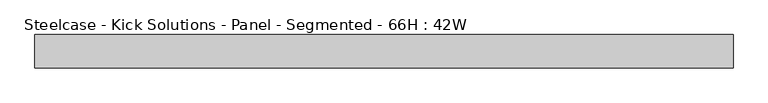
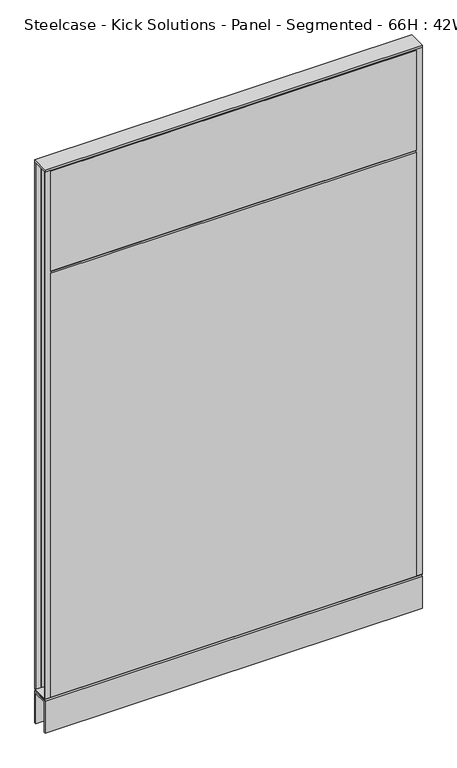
"""IFC4 building model written with IfcOpenShell, lengths in millimetres: furniture geometry, Steelcase - Kick Solutions - Panel - Segmented - 66H : 42W."""

from ifc_helpers import new_model, si_unit, frame, origin, place, context, project, spatial, polyline, outline, extrude, source, transform, mapped, element, save


def steelcase_kick_solutions_panel_segmented_66h_42w_aceb16ff(model_context):
    return source(origin(), model_context, "Body", "SweptSolid", [
        extrude(outline(polyline([(1.5e-06, 101.600003), (-3.175, 101.600003), (-3.175, 1676.4), (1.5e-06, 1673.3188448), (1.5e-06, 101.600003)])), frame((15.8749996, 0.0, 0.0), z_axis=(1.0, 0.0, 0.0), x_axis=(0.0, 1.0, 0.0)), (0.0, 0.0, 1.0), 1035.0500008),
        extrude(outline(polyline([(-50.8000015, 1374.6811552), (-50.8000015, 1673.3188448), (-47.625, 1676.4), (-47.625, 1371.6), (-50.8000015, 1374.6811552)])), frame((15.8749996, 0.0, 0.0), z_axis=(1.0, 0.0, 0.0), x_axis=(0.0, 1.0, 0.0)), (0.0, 0.0, 1.0), 1035.0500008),
        extrude(outline(polyline([(-50.8000015, 101.600003), (-50.8000015, 1368.5188448), (-47.625, 1371.6), (-47.625, 101.600003), (-50.8000015, 101.600003)])), frame((15.8749996, 0.0, 0.0), z_axis=(1.0, 0.0, 0.0), x_axis=(0.0, 1.0, 0.0)), (0.0, 0.0, 1.0), 1035.0500008),
        extrude(outline(polyline([(1066.8, -3.1750015), (1050.9250004, -3.1750015), (1050.9250004, 0.0), (1066.8, 0.0), (1066.8, -3.1750015)])), frame((0.0, 0.0, 101.7169049), z_axis=(0.0, 0.0, 1.0), x_axis=(1.0, 0.0, 0.0)), (0.0, 0.0, 1.0), 1574.799997),
        extrude(outline(polyline([(15.8749996, -50.8000015), (0.0, -50.8000015), (0.0, -47.625), (15.8749996, -47.625), (15.8749996, -50.8000015)])), frame((0.0, 0.0, 101.7169049), z_axis=(0.0, 0.0, 1.0), x_axis=(1.0, 0.0, 0.0)), (0.0, 0.0, 1.0), 1574.799997),
        extrude(outline(polyline([(-50.7995075, 101.7169049), (-0.000494, 101.7169049), (-3.0583512, 98.5421458), (-47.7416503, 98.5421458), (-50.7995075, 101.7169049)])), frame((0.0, 0.0, 0.0), z_axis=(1.0, 0.0, 0.0), x_axis=(0.0, 1.0, 0.0)), (0.0, 0.0, 1.0), 1066.8),
        extrude(outline(polyline([(1066.8, 0.0), (1066.8, -50.8000015), (0.0, -50.8000015), (0.0, 0.0), (1066.8, 0.0)])), frame((0.0, 0.0, 1676.5169018), z_axis=(0.0, 0.0, 1.0), x_axis=(1.0, 0.0, 0.0)), (0.0, 0.0, 1.0), 6.35),
        extrude(outline(polyline([(15.8749996, -3.1750015), (0.0, -3.1750015), (0.0, 0.0), (15.8749996, 0.0), (15.8749996, -3.1750015)])), frame((0.0, 0.0, 101.7169049), z_axis=(0.0, 0.0, 1.0), x_axis=(1.0, 0.0, 0.0)), (0.0, 0.0, 1.0), 1574.799997),
        extrude(outline(polyline([(1066.8, -50.8000015), (1050.9250004, -50.8000015), (1050.9250004, -47.625), (1066.8, -47.625), (1066.8, -50.8000015)])), frame((0.0, 0.0, 101.7169049), z_axis=(0.0, 0.0, 1.0), x_axis=(1.0, 0.0, 0.0)), (0.0, 0.0, 1.0), 1574.799997),
        extrude(outline(polyline([(-50.8000015, 95.3668927), (-47.6247484, 98.5421458), (-3.1752531, 98.5421458), (0.0, 95.3668927), (-50.8000015, 95.3668927)])), frame((0.0, 0.0, 0.0), z_axis=(1.0, 0.0, 0.0), x_axis=(0.0, 1.0, 0.0)), (0.0, 0.0, 1.0), 1066.8),
        extrude(outline(polyline([(0.0, 0.0), (-5.08, 0.0), (-5.08, 90.2869018), (-45.7200015, 90.2869018), (-45.7200015, 0.0), (-50.8000015, 0.0), (-50.8000015, 95.3669018), (0.0, 95.3669018), (0.0, 0.0)])), frame((0.0, 0.0, 0.0), z_axis=(1.0, 0.0, 0.0), x_axis=(0.0, 1.0, 0.0)), (0.0, 0.0, 1.0), 1066.8),
    ])


if __name__ == "__main__":
    model = new_model("IFC4")
    model_context = context("Model", 3, world=origin())
    ifc_project = project(units=[si_unit("LENGTHUNIT", "METRE", prefix="MILLI")], contexts=[model_context])
    site = spatial("IfcSite", under=ifc_project)
    building = spatial("IfcBuilding", under=site)
    placement = place(None, origin())
    steelcase_kick_solutions_panel_segmented_66h_42w_shape = steelcase_kick_solutions_panel_segmented_66h_42w_aceb16ff(model_context)
    element("IfcFurniture", 1, ObjectType="Steelcase - Kick Solutions - Panel - Segmented - 66H : 42W", at=placement, inside=building, context=model_context, shape_type="MappedRepresentation", body=[
        mapped(steelcase_kick_solutions_panel_segmented_66h_42w_shape, transform((0.0, 0.0, 0.0), x_axis=(1.0, 0.0, 0.0), y_axis=(0.0, 1.0, 0.0), z_axis=(0.0, 0.0, 1.0))),
    ])
    save(model, "model.ifc")
